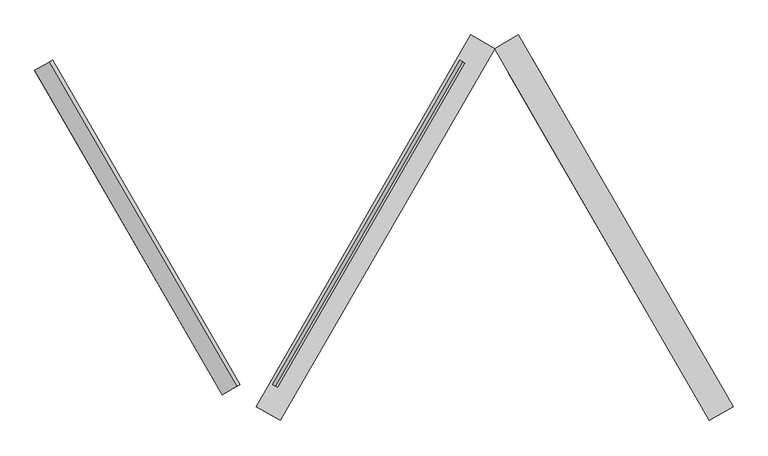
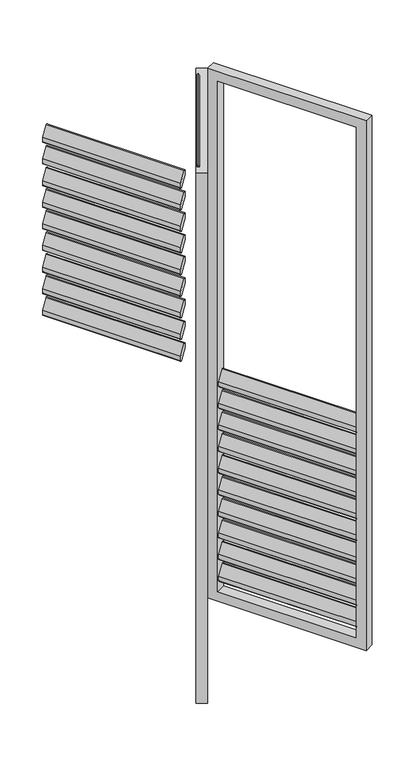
"""IFC4 building model written with IfcOpenShell, lengths in millimetres: proxy geometry, Renson_Amani_Loggia_Paro_Aluminium_Folding : Renson_Amani_Loggia_Paro_Aluminium_Folding."""

from ifc_helpers import new_model, si_unit, point, frame, frame_2d, origin, place, context, project, spatial, polyline, circle_curve, trimmed, segment, composite_curve, outline, extrude, source, transform, mapped, element, save


def generic_models_33ef9a21(model_context):
    return source(origin(), model_context, "Body", "SweptSolid", [
        extrude(outline(composite_curve([segment(polyline([(-44.0658831, 0.0), (0.8886405, 0.0), (17.0325667, -10.4839883)]), True, "CONTINUOUS"), segment(trimmed(circle_curve(frame_2d((15.3986496, -13.0)), 3.0), [point((17.0325667, -10.4839883))], [point((15.3986496, -16.0))], False, "CARTESIAN"), True, "CONTINUOUS"), segment(polyline([(15.3986496, -16.0), (-28.6672334, -16.0)]), True, "CONTINUOUS"), segment(trimmed(circle_curve(frame_2d((-28.6672334, -13.0)), 3.0), [point((-28.6672334, -16.0))], [point((-30.3011505, -15.5160117))], False, "CARTESIAN"), True, "CONTINUOUS"), segment(polyline([(-30.3011505, -15.5160117), (-45.6998002, -5.5160117)]), True, "CONTINUOUS"), segment(trimmed(circle_curve(frame_2d((-44.0658831, -3.0)), 3.0), [point((-45.6998002, -5.5160117))], [point((-44.0658831, 0.0))], False, "CARTESIAN"), True, "CONTINUOUS")], self_intersect=False)), frame((992.1094572, 37.7168064, 957.3359298), z_axis=(-0.5000000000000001, 0.8660254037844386, 0.0), x_axis=(-0.47167124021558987, -0.2723195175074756, -0.8386705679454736)), (0.0, 0.0, 1.0), 545.0),
        extrude(outline(composite_curve([segment(polyline([(-44.0658831, 0.0), (0.8886405, 0.0), (17.0325667, -10.4839883)]), True, "CONTINUOUS"), segment(trimmed(circle_curve(frame_2d((15.3986496, -13.0)), 3.0), [point((17.0325667, -10.4839883))], [point((15.3986496, -16.0))], False, "CARTESIAN"), True, "CONTINUOUS"), segment(polyline([(15.3986496, -16.0), (-28.6672334, -16.0)]), True, "CONTINUOUS"), segment(trimmed(circle_curve(frame_2d((-28.6672334, -13.0)), 3.0), [point((-28.6672334, -16.0))], [point((-30.3011505, -15.5160117))], False, "CARTESIAN"), True, "CONTINUOUS"), segment(polyline([(-30.3011505, -15.5160117), (-45.6998002, -5.5160117)]), True, "CONTINUOUS"), segment(trimmed(circle_curve(frame_2d((-44.0658831, -3.0)), 3.0), [point((-45.6998002, -5.5160117))], [point((-44.0658831, 0.0))], False, "CARTESIAN"), True, "CONTINUOUS")], self_intersect=False)), frame((992.1094572, 37.7168064, 867.3359298), z_axis=(-0.5000000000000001, 0.8660254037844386, 0.0), x_axis=(-0.47167124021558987, -0.2723195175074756, -0.8386705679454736)), (0.0, 0.0, 1.0), 545.0),
        extrude(outline(composite_curve([segment(polyline([(-44.0658831, 0.0), (0.8886405, 0.0), (17.0325667, -10.4839883)]), True, "CONTINUOUS"), segment(trimmed(circle_curve(frame_2d((15.3986496, -13.0)), 3.0), [point((17.0325667, -10.4839883))], [point((15.3986496, -16.0))], False, "CARTESIAN"), True, "CONTINUOUS"), segment(polyline([(15.3986496, -16.0), (-28.6672334, -16.0)]), True, "CONTINUOUS"), segment(trimmed(circle_curve(frame_2d((-28.6672334, -13.0)), 3.0), [point((-28.6672334, -16.0))], [point((-30.3011505, -15.5160117))], False, "CARTESIAN"), True, "CONTINUOUS"), segment(polyline([(-30.3011505, -15.5160117), (-45.6998002, -5.5160117)]), True, "CONTINUOUS"), segment(trimmed(circle_curve(frame_2d((-44.0658831, -3.0)), 3.0), [point((-45.6998002, -5.5160117))], [point((-44.0658831, 0.0))], False, "CARTESIAN"), True, "CONTINUOUS")], self_intersect=False)), frame((992.1094572, 37.7168064, 777.3359298), z_axis=(-0.5000000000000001, 0.8660254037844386, 0.0), x_axis=(-0.47167124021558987, -0.2723195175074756, -0.8386705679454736)), (0.0, 0.0, 1.0), 545.0),
        extrude(outline(composite_curve([segment(polyline([(-44.0658831, 0.0), (0.8886405, 0.0), (17.0325667, -10.4839883)]), True, "CONTINUOUS"), segment(trimmed(circle_curve(frame_2d((15.3986496, -13.0)), 3.0), [point((17.0325667, -10.4839883))], [point((15.3986496, -16.0))], False, "CARTESIAN"), True, "CONTINUOUS"), segment(polyline([(15.3986496, -16.0), (-28.6672334, -16.0)]), True, "CONTINUOUS"), segment(trimmed(circle_curve(frame_2d((-28.6672334, -13.0)), 3.0), [point((-28.6672334, -16.0))], [point((-30.3011505, -15.5160117))], False, "CARTESIAN"), True, "CONTINUOUS"), segment(polyline([(-30.3011505, -15.5160117), (-45.6998002, -5.5160117)]), True, "CONTINUOUS"), segment(trimmed(circle_curve(frame_2d((-44.0658831, -3.0)), 3.0), [point((-45.6998002, -5.5160117))], [point((-44.0658831, 0.0))], False, "CARTESIAN"), True, "CONTINUOUS")], self_intersect=False)), frame((992.1094572, 37.7168064, 687.3359298), z_axis=(-0.5000000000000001, 0.8660254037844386, 0.0), x_axis=(-0.47167124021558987, -0.2723195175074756, -0.8386705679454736)), (0.0, 0.0, 1.0), 545.0),
        extrude(outline(composite_curve([segment(polyline([(-44.0658831, 0.0), (0.8886405, 0.0), (17.0325667, -10.4839883)]), True, "CONTINUOUS"), segment(trimmed(circle_curve(frame_2d((15.3986496, -13.0)), 3.0), [point((17.0325667, -10.4839883))], [point((15.3986496, -16.0))], False, "CARTESIAN"), True, "CONTINUOUS"), segment(polyline([(15.3986496, -16.0), (-28.6672334, -16.0)]), True, "CONTINUOUS"), segment(trimmed(circle_curve(frame_2d((-28.6672334, -13.0)), 3.0), [point((-28.6672334, -16.0))], [point((-30.3011505, -15.5160117))], False, "CARTESIAN"), True, "CONTINUOUS"), segment(polyline([(-30.3011505, -15.5160117), (-45.6998002, -5.5160117)]), True, "CONTINUOUS"), segment(trimmed(circle_curve(frame_2d((-44.0658831, -3.0)), 3.0), [point((-45.6998002, -5.5160117))], [point((-44.0658831, 0.0))], False, "CARTESIAN"), True, "CONTINUOUS")], self_intersect=False)), frame((992.1094572, 37.7168064, 597.3359298), z_axis=(-0.5000000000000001, 0.8660254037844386, 0.0), x_axis=(-0.47167124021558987, -0.2723195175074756, -0.8386705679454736)), (0.0, 0.0, 1.0), 545.0),
        extrude(outline(composite_curve([segment(polyline([(-44.0658831, 0.0), (0.8886405, 0.0), (17.0325667, -10.4839883)]), True, "CONTINUOUS"), segment(trimmed(circle_curve(frame_2d((15.3986496, -13.0)), 3.0), [point((17.0325667, -10.4839883))], [point((15.3986496, -16.0))], False, "CARTESIAN"), True, "CONTINUOUS"), segment(polyline([(15.3986496, -16.0), (-28.6672334, -16.0)]), True, "CONTINUOUS"), segment(trimmed(circle_curve(frame_2d((-28.6672334, -13.0)), 3.0), [point((-28.6672334, -16.0))], [point((-30.3011505, -15.5160117))], False, "CARTESIAN"), True, "CONTINUOUS"), segment(polyline([(-30.3011505, -15.5160117), (-45.6998002, -5.5160117)]), True, "CONTINUOUS"), segment(trimmed(circle_curve(frame_2d((-44.0658831, -3.0)), 3.0), [point((-45.6998002, -5.5160117))], [point((-44.0658831, 0.0))], False, "CARTESIAN"), True, "CONTINUOUS")], self_intersect=False)), frame((992.1094572, 37.7168064, 507.3359298), z_axis=(-0.5000000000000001, 0.8660254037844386, 0.0), x_axis=(-0.47167124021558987, -0.2723195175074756, -0.8386705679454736)), (0.0, 0.0, 1.0), 545.0),
        extrude(outline(composite_curve([segment(polyline([(-44.0658831, 0.0), (0.8886405, 0.0), (17.0325667, -10.4839883)]), True, "CONTINUOUS"), segment(trimmed(circle_curve(frame_2d((15.3986496, -13.0)), 3.0), [point((17.0325667, -10.4839883))], [point((15.3986496, -16.0))], False, "CARTESIAN"), True, "CONTINUOUS"), segment(polyline([(15.3986496, -16.0), (-28.6672334, -16.0)]), True, "CONTINUOUS"), segment(trimmed(circle_curve(frame_2d((-28.6672334, -13.0)), 3.0), [point((-28.6672334, -16.0))], [point((-30.3011505, -15.5160117))], False, "CARTESIAN"), True, "CONTINUOUS"), segment(polyline([(-30.3011505, -15.5160117), (-45.6998002, -5.5160117)]), True, "CONTINUOUS"), segment(trimmed(circle_curve(frame_2d((-44.0658831, -3.0)), 3.0), [point((-45.6998002, -5.5160117))], [point((-44.0658831, 0.0))], False, "CARTESIAN"), True, "CONTINUOUS")], self_intersect=False)), frame((992.1094572, 37.7168064, 417.3359298), z_axis=(-0.5000000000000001, 0.8660254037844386, 0.0), x_axis=(-0.47167124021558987, -0.2723195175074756, -0.8386705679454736)), (0.0, 0.0, 1.0), 545.0),
        extrude(outline(composite_curve([segment(polyline([(-44.0658831, 0.0), (0.8886405, 0.0), (17.0325667, -10.4839883)]), True, "CONTINUOUS"), segment(trimmed(circle_curve(frame_2d((15.3986496, -13.0)), 3.0), [point((17.0325667, -10.4839883))], [point((15.3986496, -16.0))], False, "CARTESIAN"), True, "CONTINUOUS"), segment(polyline([(15.3986496, -16.0), (-28.6672334, -16.0)]), True, "CONTINUOUS"), segment(trimmed(circle_curve(frame_2d((-28.6672334, -13.0)), 3.0), [point((-28.6672334, -16.0))], [point((-30.3011505, -15.5160117))], False, "CARTESIAN"), True, "CONTINUOUS"), segment(polyline([(-30.3011505, -15.5160117), (-45.6998002, -5.5160117)]), True, "CONTINUOUS"), segment(trimmed(circle_curve(frame_2d((-44.0658831, -3.0)), 3.0), [point((-45.6998002, -5.5160117))], [point((-44.0658831, 0.0))], False, "CARTESIAN"), True, "CONTINUOUS")], self_intersect=False)), frame((992.1094572, 37.7168064, 327.3359298), z_axis=(-0.5000000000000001, 0.8660254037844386, 0.0), x_axis=(-0.47167124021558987, -0.2723195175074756, -0.8386705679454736)), (0.0, 0.0, 1.0), 545.0),
        extrude(outline(composite_curve([segment(polyline([(-44.0658831, 0.0), (0.8886405, 0.0), (17.0325667, -10.4839883)]), True, "CONTINUOUS"), segment(trimmed(circle_curve(frame_2d((15.3986496, -13.0)), 3.0), [point((17.0325667, -10.4839883))], [point((15.3986496, -16.0))], False, "CARTESIAN"), True, "CONTINUOUS"), segment(polyline([(15.3986496, -16.0), (-28.6672334, -16.0)]), True, "CONTINUOUS"), segment(trimmed(circle_curve(frame_2d((-28.6672334, -13.0)), 3.0), [point((-28.6672334, -16.0))], [point((-30.3011505, -15.5160117))], False, "CARTESIAN"), True, "CONTINUOUS"), segment(polyline([(-30.3011505, -15.5160117), (-45.6998002, -5.5160117)]), True, "CONTINUOUS"), segment(trimmed(circle_curve(frame_2d((-44.0658831, -3.0)), 3.0), [point((-45.6998002, -5.5160117))], [point((-44.0658831, 0.0))], False, "CARTESIAN"), True, "CONTINUOUS")], self_intersect=False)), frame((992.1094572, 37.7168064, 237.3359298), z_axis=(-0.5000000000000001, 0.8660254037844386, 0.0), x_axis=(-0.47167124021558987, -0.2723195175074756, -0.8386705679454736)), (0.0, 0.0, 1.0), 545.0),
        extrude(outline(composite_curve([segment(polyline([(-44.0658831, 0.0), (0.8886405, 0.0), (17.0325667, -10.4839883)]), True, "CONTINUOUS"), segment(trimmed(circle_curve(frame_2d((15.3986496, -13.0)), 3.0), [point((17.0325667, -10.4839883))], [point((15.3986496, -16.0))], False, "CARTESIAN"), True, "CONTINUOUS"), segment(polyline([(15.3986496, -16.0), (-28.6672334, -16.0)]), True, "CONTINUOUS"), segment(trimmed(circle_curve(frame_2d((-28.6672334, -13.0)), 3.0), [point((-28.6672334, -16.0))], [point((-30.3011505, -15.5160117))], False, "CARTESIAN"), True, "CONTINUOUS"), segment(polyline([(-30.3011505, -15.5160117), (-45.6998002, -5.5160117)]), True, "CONTINUOUS"), segment(trimmed(circle_curve(frame_2d((-44.0658831, -3.0)), 3.0), [point((-45.6998002, -5.5160117))], [point((-44.0658831, 0.0))], False, "CARTESIAN"), True, "CONTINUOUS")], self_intersect=False)), frame((992.1094572, 37.7168064, 147.3359298), z_axis=(-0.5000000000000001, 0.8660254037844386, 0.0), x_axis=(-0.47167124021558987, -0.2723195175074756, -0.8386705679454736)), (0.0, 0.0, 1.0), 545.0),
        extrude(outline(polyline([(2165.0, -40.0), (-40.0, -40.0), (-40.0, 585.0), (2165.0, 585.0), (2165.0, -40.0)]), holes=[polyline([(2125.0, 544.9999999), (0.0, 544.9999999), (0.0, 0.0), (2125.0, 0.0), (2125.0, 544.9999999)])]), frame((714.2820323, 506.6248612, 85.0), z_axis=(0.8660254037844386, 0.5000000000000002, 0.0), x_axis=(0.0, 0.0, 1.0)), (0.0, 0.0, 1.0), 40.0),
        extrude(outline(composite_curve([segment(trimmed(circle_curve(frame_2d((44.0658831, -3.0)), 3.0), [point((44.0658831, 0.0))], [point((45.6998002, -5.5160117))], False, "CARTESIAN"), True, "CONTINUOUS"), segment(polyline([(45.6998002, -5.5160117), (30.3011505, -15.5160117)]), True, "CONTINUOUS"), segment(trimmed(circle_curve(frame_2d((28.6672334, -13.0)), 3.0), [point((30.3011505, -15.5160117))], [point((28.6672334, -16.0))], False, "CARTESIAN"), True, "CONTINUOUS"), segment(polyline([(28.6672334, -16.0), (-15.3986496, -16.0)]), True, "CONTINUOUS"), segment(trimmed(circle_curve(frame_2d((-15.3986496, -13.0)), 3.0), [point((-15.3986496, -16.0))], [point((-17.0325667, -10.4839883))], False, "CARTESIAN"), True, "CONTINUOUS"), segment(polyline([(-17.0325667, -10.4839883), (-0.8886405, 0.0), (44.0658831, 0.0)]), True, "CONTINUOUS")], self_intersect=False)), frame((396.4546074, 37.7168064, 2217.3359298), z_axis=(0.5000000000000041, 0.8660254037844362, 0.0), x_axis=(-0.47167124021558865, 0.2723195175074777, 0.8386705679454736)), (0.0, 0.0, 1.0), 545.0),
        extrude(outline(composite_curve([segment(trimmed(circle_curve(frame_2d((44.0658831, -3.0)), 3.0), [point((44.0658831, 0.0))], [point((45.6998002, -5.5160117))], False, "CARTESIAN"), True, "CONTINUOUS"), segment(polyline([(45.6998002, -5.5160117), (30.3011505, -15.5160117)]), True, "CONTINUOUS"), segment(trimmed(circle_curve(frame_2d((28.6672334, -13.0)), 3.0), [point((30.3011505, -15.5160117))], [point((28.6672334, -16.0))], False, "CARTESIAN"), True, "CONTINUOUS"), segment(polyline([(28.6672334, -16.0), (-15.3986496, -16.0)]), True, "CONTINUOUS"), segment(trimmed(circle_curve(frame_2d((-15.3986496, -13.0)), 3.0), [point((-15.3986496, -16.0))], [point((-17.0325667, -10.4839883))], False, "CARTESIAN"), True, "CONTINUOUS"), segment(polyline([(-17.0325667, -10.4839883), (-0.8886405, 0.0), (44.0658831, 0.0)]), True, "CONTINUOUS")], self_intersect=False)), frame((396.4546074, 37.7168064, 2127.3359298), z_axis=(0.5000000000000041, 0.8660254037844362, 0.0), x_axis=(-0.47167124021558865, 0.2723195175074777, 0.8386705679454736)), (0.0, 0.0, 1.0), 545.0),
        extrude(outline(composite_curve([segment(trimmed(circle_curve(frame_2d((44.0658831, -3.0)), 3.0), [point((44.0658831, 0.0))], [point((45.6998002, -5.5160117))], False, "CARTESIAN"), True, "CONTINUOUS"), segment(polyline([(45.6998002, -5.5160117), (30.3011505, -15.5160117)]), True, "CONTINUOUS"), segment(trimmed(circle_curve(frame_2d((28.6672334, -13.0)), 3.0), [point((30.3011505, -15.5160117))], [point((28.6672334, -16.0))], False, "CARTESIAN"), True, "CONTINUOUS"), segment(polyline([(28.6672334, -16.0), (-15.3986496, -16.0)]), True, "CONTINUOUS"), segment(trimmed(circle_curve(frame_2d((-15.3986496, -13.0)), 3.0), [point((-15.3986496, -16.0))], [point((-17.0325667, -10.4839883))], False, "CARTESIAN"), True, "CONTINUOUS"), segment(polyline([(-17.0325667, -10.4839883), (-0.8886405, 0.0), (44.0658831, 0.0)]), True, "CONTINUOUS")], self_intersect=False)), frame((396.4546074, 37.7168064, 2037.3359298), z_axis=(0.5000000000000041, 0.8660254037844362, 0.0), x_axis=(-0.47167124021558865, 0.2723195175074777, 0.8386705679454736)), (0.0, 0.0, 1.0), 545.0),
        extrude(outline(composite_curve([segment(trimmed(circle_curve(frame_2d((44.0658831, -3.0)), 3.0), [point((44.0658831, 0.0))], [point((45.6998002, -5.5160117))], False, "CARTESIAN"), True, "CONTINUOUS"), segment(polyline([(45.6998002, -5.5160117), (30.3011505, -15.5160117)]), True, "CONTINUOUS"), segment(trimmed(circle_curve(frame_2d((28.6672334, -13.0)), 3.0), [point((30.3011505, -15.5160117))], [point((28.6672334, -16.0))], False, "CARTESIAN"), True, "CONTINUOUS"), segment(polyline([(28.6672334, -16.0), (-15.3986496, -16.0)]), True, "CONTINUOUS"), segment(trimmed(circle_curve(frame_2d((-15.3986496, -13.0)), 3.0), [point((-15.3986496, -16.0))], [point((-17.0325667, -10.4839883))], False, "CARTESIAN"), True, "CONTINUOUS"), segment(polyline([(-17.0325667, -10.4839883), (-0.8886405, 0.0), (44.0658831, 0.0)]), True, "CONTINUOUS")], self_intersect=False)), frame((396.4546074, 37.7168064, 1947.3359298), z_axis=(0.5000000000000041, 0.8660254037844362, 0.0), x_axis=(-0.47167124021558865, 0.2723195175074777, 0.8386705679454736)), (0.0, 0.0, 1.0), 545.0),
        extrude(outline(composite_curve([segment(trimmed(circle_curve(frame_2d((44.0658831, -3.0)), 3.0), [point((44.0658831, 0.0))], [point((45.6998002, -5.5160117))], False, "CARTESIAN"), True, "CONTINUOUS"), segment(polyline([(45.6998002, -5.5160117), (30.3011505, -15.5160117)]), True, "CONTINUOUS"), segment(trimmed(circle_curve(frame_2d((28.6672334, -13.0)), 3.0), [point((30.3011505, -15.5160117))], [point((28.6672334, -16.0))], False, "CARTESIAN"), True, "CONTINUOUS"), segment(polyline([(28.6672334, -16.0), (-15.3986496, -16.0)]), True, "CONTINUOUS"), segment(trimmed(circle_curve(frame_2d((-15.3986496, -13.0)), 3.0), [point((-15.3986496, -16.0))], [point((-17.0325667, -10.4839883))], False, "CARTESIAN"), True, "CONTINUOUS"), segment(polyline([(-17.0325667, -10.4839883), (-0.8886405, 0.0), (44.0658831, 0.0)]), True, "CONTINUOUS")], self_intersect=False)), frame((396.4546074, 37.7168064, 1857.3359298), z_axis=(0.5000000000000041, 0.8660254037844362, 0.0), x_axis=(-0.47167124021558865, 0.2723195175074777, 0.8386705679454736)), (0.0, 0.0, 1.0), 545.0),
        extrude(outline(composite_curve([segment(trimmed(circle_curve(frame_2d((44.0658831, -3.0)), 3.0), [point((44.0658831, 0.0))], [point((45.6998002, -5.5160117))], False, "CARTESIAN"), True, "CONTINUOUS"), segment(polyline([(45.6998002, -5.5160117), (30.3011505, -15.5160117)]), True, "CONTINUOUS"), segment(trimmed(circle_curve(frame_2d((28.6672334, -13.0)), 3.0), [point((30.3011505, -15.5160117))], [point((28.6672334, -16.0))], False, "CARTESIAN"), True, "CONTINUOUS"), segment(polyline([(28.6672334, -16.0), (-15.3986496, -16.0)]), True, "CONTINUOUS"), segment(trimmed(circle_curve(frame_2d((-15.3986496, -13.0)), 3.0), [point((-15.3986496, -16.0))], [point((-17.0325667, -10.4839883))], False, "CARTESIAN"), True, "CONTINUOUS"), segment(polyline([(-17.0325667, -10.4839883), (-0.8886405, 0.0), (44.0658831, 0.0)]), True, "CONTINUOUS")], self_intersect=False)), frame((396.4546074, 37.7168064, 1767.3359298), z_axis=(0.5000000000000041, 0.8660254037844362, 0.0), x_axis=(-0.47167124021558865, 0.2723195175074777, 0.8386705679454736)), (0.0, 0.0, 1.0), 545.0),
        extrude(outline(composite_curve([segment(trimmed(circle_curve(frame_2d((44.0658831, -3.0)), 3.0), [point((44.0658831, 0.0))], [point((45.6998002, -5.5160117))], False, "CARTESIAN"), True, "CONTINUOUS"), segment(polyline([(45.6998002, -5.5160117), (30.3011505, -15.5160117)]), True, "CONTINUOUS"), segment(trimmed(circle_curve(frame_2d((28.6672334, -13.0)), 3.0), [point((30.3011505, -15.5160117))], [point((28.6672334, -16.0))], False, "CARTESIAN"), True, "CONTINUOUS"), segment(polyline([(28.6672334, -16.0), (-15.3986496, -16.0)]), True, "CONTINUOUS"), segment(trimmed(circle_curve(frame_2d((-15.3986496, -13.0)), 3.0), [point((-15.3986496, -16.0))], [point((-17.0325667, -10.4839883))], False, "CARTESIAN"), True, "CONTINUOUS"), segment(polyline([(-17.0325667, -10.4839883), (-0.8886405, 0.0), (44.0658831, 0.0)]), True, "CONTINUOUS")], self_intersect=False)), frame((396.4546074, 37.7168064, 1677.3359298), z_axis=(0.5000000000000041, 0.8660254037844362, 0.0), x_axis=(-0.47167124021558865, 0.2723195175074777, 0.8386705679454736)), (0.0, 0.0, 1.0), 545.0),
        extrude(outline(composite_curve([segment(trimmed(circle_curve(frame_2d((44.0658831, -3.0)), 3.0), [point((44.0658831, 0.0))], [point((45.6998002, -5.5160117))], False, "CARTESIAN"), True, "CONTINUOUS"), segment(polyline([(45.6998002, -5.5160117), (30.3011505, -15.5160117)]), True, "CONTINUOUS"), segment(trimmed(circle_curve(frame_2d((28.6672334, -13.0)), 3.0), [point((30.3011505, -15.5160117))], [point((28.6672334, -16.0))], False, "CARTESIAN"), True, "CONTINUOUS"), segment(polyline([(28.6672334, -16.0), (-15.3986496, -16.0)]), True, "CONTINUOUS"), segment(trimmed(circle_curve(frame_2d((-15.3986496, -13.0)), 3.0), [point((-15.3986496, -16.0))], [point((-17.0325667, -10.4839883))], False, "CARTESIAN"), True, "CONTINUOUS"), segment(polyline([(-17.0325667, -10.4839883), (-0.8886405, 0.0), (44.0658831, 0.0)]), True, "CONTINUOUS")], self_intersect=False)), frame((396.4546074, 37.7168064, 1587.3359298), z_axis=(0.5000000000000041, 0.8660254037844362, 0.0), x_axis=(-0.47167124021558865, 0.2723195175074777, 0.8386705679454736)), (0.0, 0.0, 1.0), 545.0),
        extrude(outline(composite_curve([segment(trimmed(circle_curve(frame_2d((44.0658831, -3.0)), 3.0), [point((44.0658831, 0.0))], [point((45.6998002, -5.5160117))], False, "CARTESIAN"), True, "CONTINUOUS"), segment(polyline([(45.6998002, -5.5160117), (30.3011505, -15.5160117)]), True, "CONTINUOUS"), segment(trimmed(circle_curve(frame_2d((28.6672334, -13.0)), 3.0), [point((30.3011505, -15.5160117))], [point((28.6672334, -16.0))], False, "CARTESIAN"), True, "CONTINUOUS"), segment(polyline([(28.6672334, -16.0), (-15.3986496, -16.0)]), True, "CONTINUOUS"), segment(trimmed(circle_curve(frame_2d((-15.3986496, -13.0)), 3.0), [point((-15.3986496, -16.0))], [point((-17.0325667, -10.4839883))], False, "CARTESIAN"), True, "CONTINUOUS"), segment(polyline([(-17.0325667, -10.4839883), (-0.8886405, 0.0), (44.0658831, 0.0)]), True, "CONTINUOUS")], self_intersect=False)), frame((396.4546074, 37.7168064, 1497.3359298), z_axis=(0.5000000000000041, 0.8660254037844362, 0.0), x_axis=(-0.47167124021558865, 0.2723195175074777, 0.8386705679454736)), (0.0, 0.0, 1.0), 545.0),
        extrude(outline(composite_curve([segment(trimmed(circle_curve(frame_2d((44.0658831, -3.0)), 3.0), [point((44.0658831, 0.0))], [point((45.6998002, -5.5160117))], False, "CARTESIAN"), True, "CONTINUOUS"), segment(polyline([(45.6998002, -5.5160117), (30.3011505, -15.5160117)]), True, "CONTINUOUS"), segment(trimmed(circle_curve(frame_2d((28.6672334, -13.0)), 3.0), [point((30.3011505, -15.5160117))], [point((28.6672334, -16.0))], False, "CARTESIAN"), True, "CONTINUOUS"), segment(polyline([(28.6672334, -16.0), (-15.3986496, -16.0)]), True, "CONTINUOUS"), segment(trimmed(circle_curve(frame_2d((-15.3986496, -13.0)), 3.0), [point((-15.3986496, -16.0))], [point((-17.0325667, -10.4839883))], False, "CARTESIAN"), True, "CONTINUOUS"), segment(polyline([(-17.0325667, -10.4839883), (-0.8886405, 0.0), (44.0658831, 0.0)]), True, "CONTINUOUS")], self_intersect=False)), frame((396.4546074, 37.7168064, 1407.3359298), z_axis=(0.5000000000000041, 0.8660254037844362, 0.0), x_axis=(-0.47167124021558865, 0.2723195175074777, 0.8386705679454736)), (0.0, 0.0, 1.0), 545.0),
        extrude(outline(composite_curve([segment(trimmed(circle_curve(frame_2d((44.0658831, -3.0)), 3.0), [point((44.0658831, 0.0))], [point((45.6998002, -5.5160117))], False, "CARTESIAN"), True, "CONTINUOUS"), segment(polyline([(45.6998002, -5.5160117), (30.3011505, -15.5160117)]), True, "CONTINUOUS"), segment(trimmed(circle_curve(frame_2d((28.6672334, -13.0)), 3.0), [point((30.3011505, -15.5160117))], [point((28.6672334, -16.0))], False, "CARTESIAN"), True, "CONTINUOUS"), segment(polyline([(28.6672334, -16.0), (-15.3986496, -16.0)]), True, "CONTINUOUS"), segment(trimmed(circle_curve(frame_2d((-15.3986496, -13.0)), 3.0), [point((-15.3986496, -16.0))], [point((-17.0325667, -10.4839883))], False, "CARTESIAN"), True, "CONTINUOUS"), segment(polyline([(-17.0325667, -10.4839883), (-0.8886405, 0.0), (44.0658831, 0.0)]), True, "CONTINUOUS")], self_intersect=False)), frame((396.4546074, 37.7168064, 1317.3359298), z_axis=(0.5000000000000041, 0.8660254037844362, 0.0), x_axis=(-0.47167124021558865, 0.2723195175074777, 0.8386705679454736)), (0.0, 0.0, 1.0), 545.0),
        extrude(outline(composite_curve([segment(trimmed(circle_curve(frame_2d((44.0658831, -3.0)), 3.0), [point((44.0658831, 0.0))], [point((45.6998002, -5.5160117))], False, "CARTESIAN"), True, "CONTINUOUS"), segment(polyline([(45.6998002, -5.5160117), (30.3011505, -15.5160117)]), True, "CONTINUOUS"), segment(trimmed(circle_curve(frame_2d((28.6672334, -13.0)), 3.0), [point((30.3011505, -15.5160117))], [point((28.6672334, -16.0))], False, "CARTESIAN"), True, "CONTINUOUS"), segment(polyline([(28.6672334, -16.0), (-15.3986496, -16.0)]), True, "CONTINUOUS"), segment(trimmed(circle_curve(frame_2d((-15.3986496, -13.0)), 3.0), [point((-15.3986496, -16.0))], [point((-17.0325667, -10.4839883))], False, "CARTESIAN"), True, "CONTINUOUS"), segment(polyline([(-17.0325667, -10.4839883), (-0.8886405, 0.0), (44.0658831, 0.0)]), True, "CONTINUOUS")], self_intersect=False)), frame((396.4546074, 37.7168064, 1227.3359298), z_axis=(0.5000000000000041, 0.8660254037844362, 0.0), x_axis=(-0.47167124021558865, 0.2723195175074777, 0.8386705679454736)), (0.0, 0.0, 1.0), 545.0),
        extrude(outline(composite_curve([segment(trimmed(circle_curve(frame_2d((44.0658831, -3.0)), 3.0), [point((44.0658831, 0.0))], [point((45.6998002, -5.5160117))], False, "CARTESIAN"), True, "CONTINUOUS"), segment(polyline([(45.6998002, -5.5160117), (30.3011505, -15.5160117)]), True, "CONTINUOUS"), segment(trimmed(circle_curve(frame_2d((28.6672334, -13.0)), 3.0), [point((30.3011505, -15.5160117))], [point((28.6672334, -16.0))], False, "CARTESIAN"), True, "CONTINUOUS"), segment(polyline([(28.6672334, -16.0), (-15.3986496, -16.0)]), True, "CONTINUOUS"), segment(trimmed(circle_curve(frame_2d((-15.3986496, -13.0)), 3.0), [point((-15.3986496, -16.0))], [point((-17.0325667, -10.4839883))], False, "CARTESIAN"), True, "CONTINUOUS"), segment(polyline([(-17.0325667, -10.4839883), (-0.8886405, 0.0), (44.0658831, 0.0)]), True, "CONTINUOUS")], self_intersect=False)), frame((396.4546074, 37.7168064, 1137.3359298), z_axis=(0.5000000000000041, 0.8660254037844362, 0.0), x_axis=(-0.47167124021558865, 0.2723195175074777, 0.8386705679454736)), (0.0, 0.0, 1.0), 545.0),
        extrude(outline(composite_curve([segment(trimmed(circle_curve(frame_2d((44.0658831, -3.0)), 3.0), [point((44.0658831, 0.0))], [point((45.6998002, -5.5160117))], False, "CARTESIAN"), True, "CONTINUOUS"), segment(polyline([(45.6998002, -5.5160117), (30.3011505, -15.5160117)]), True, "CONTINUOUS"), segment(trimmed(circle_curve(frame_2d((28.6672334, -13.0)), 3.0), [point((30.3011505, -15.5160117))], [point((28.6672334, -16.0))], False, "CARTESIAN"), True, "CONTINUOUS"), segment(polyline([(28.6672334, -16.0), (-15.3986496, -16.0)]), True, "CONTINUOUS"), segment(trimmed(circle_curve(frame_2d((-15.3986496, -13.0)), 3.0), [point((-15.3986496, -16.0))], [point((-17.0325667, -10.4839883))], False, "CARTESIAN"), True, "CONTINUOUS"), segment(polyline([(-17.0325667, -10.4839883), (-0.8886405, 0.0), (44.0658831, 0.0)]), True, "CONTINUOUS")], self_intersect=False)), frame((396.4546074, 37.7168064, 1047.3359298), z_axis=(0.5000000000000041, 0.8660254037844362, 0.0), x_axis=(-0.47167124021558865, 0.2723195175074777, 0.8386705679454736)), (0.0, 0.0, 1.0), 545.0),
        extrude(outline(composite_curve([segment(trimmed(circle_curve(frame_2d((44.0658831, -3.0)), 3.0), [point((44.0658831, 0.0))], [point((45.6998002, -5.5160117))], False, "CARTESIAN"), True, "CONTINUOUS"), segment(polyline([(45.6998002, -5.5160117), (30.3011505, -15.5160117)]), True, "CONTINUOUS"), segment(trimmed(circle_curve(frame_2d((28.6672334, -13.0)), 3.0), [point((30.3011505, -15.5160117))], [point((28.6672334, -16.0))], False, "CARTESIAN"), True, "CONTINUOUS"), segment(polyline([(28.6672334, -16.0), (-15.3986496, -16.0)]), True, "CONTINUOUS"), segment(trimmed(circle_curve(frame_2d((-15.3986496, -13.0)), 3.0), [point((-15.3986496, -16.0))], [point((-17.0325667, -10.4839883))], False, "CARTESIAN"), True, "CONTINUOUS"), segment(polyline([(-17.0325667, -10.4839883), (-0.8886405, 0.0), (44.0658831, 0.0)]), True, "CONTINUOUS")], self_intersect=False)), frame((396.4546074, 37.7168064, 957.3359298), z_axis=(0.5000000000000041, 0.8660254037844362, 0.0), x_axis=(-0.47167124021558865, 0.2723195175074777, 0.8386705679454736)), (0.0, 0.0, 1.0), 545.0),
        extrude(outline(composite_curve([segment(trimmed(circle_curve(frame_2d((44.0658831, -3.0)), 3.0), [point((44.0658831, 0.0))], [point((45.6998002, -5.5160117))], False, "CARTESIAN"), True, "CONTINUOUS"), segment(polyline([(45.6998002, -5.5160117), (30.3011505, -15.5160117)]), True, "CONTINUOUS"), segment(trimmed(circle_curve(frame_2d((28.6672334, -13.0)), 3.0), [point((30.3011505, -15.5160117))], [point((28.6672334, -16.0))], False, "CARTESIAN"), True, "CONTINUOUS"), segment(polyline([(28.6672334, -16.0), (-15.3986496, -16.0)]), True, "CONTINUOUS"), segment(trimmed(circle_curve(frame_2d((-15.3986496, -13.0)), 3.0), [point((-15.3986496, -16.0))], [point((-17.0325667, -10.4839883))], False, "CARTESIAN"), True, "CONTINUOUS"), segment(polyline([(-17.0325667, -10.4839883), (-0.8886405, 0.0), (44.0658831, 0.0)]), True, "CONTINUOUS")], self_intersect=False)), frame((396.4546074, 37.7168064, 867.3359298), z_axis=(0.5000000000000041, 0.8660254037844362, 0.0), x_axis=(-0.47167124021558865, 0.2723195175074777, 0.8386705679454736)), (0.0, 0.0, 1.0), 545.0),
        extrude(outline(composite_curve([segment(trimmed(circle_curve(frame_2d((44.0658831, -3.0)), 3.0), [point((44.0658831, 0.0))], [point((45.6998002, -5.5160117))], False, "CARTESIAN"), True, "CONTINUOUS"), segment(polyline([(45.6998002, -5.5160117), (30.3011505, -15.5160117)]), True, "CONTINUOUS"), segment(trimmed(circle_curve(frame_2d((28.6672334, -13.0)), 3.0), [point((30.3011505, -15.5160117))], [point((28.6672334, -16.0))], False, "CARTESIAN"), True, "CONTINUOUS"), segment(polyline([(28.6672334, -16.0), (-15.3986496, -16.0)]), True, "CONTINUOUS"), segment(trimmed(circle_curve(frame_2d((-15.3986496, -13.0)), 3.0), [point((-15.3986496, -16.0))], [point((-17.0325667, -10.4839883))], False, "CARTESIAN"), True, "CONTINUOUS"), segment(polyline([(-17.0325667, -10.4839883), (-0.8886405, 0.0), (44.0658831, 0.0)]), True, "CONTINUOUS")], self_intersect=False)), frame((396.4546074, 37.7168064, 777.3359298), z_axis=(0.5000000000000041, 0.8660254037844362, 0.0), x_axis=(-0.47167124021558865, 0.2723195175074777, 0.8386705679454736)), (0.0, 0.0, 1.0), 545.0),
        extrude(outline(composite_curve([segment(trimmed(circle_curve(frame_2d((44.0658831, -3.0)), 3.0), [point((44.0658831, 0.0))], [point((45.6998002, -5.5160117))], False, "CARTESIAN"), True, "CONTINUOUS"), segment(polyline([(45.6998002, -5.5160117), (30.3011505, -15.5160117)]), True, "CONTINUOUS"), segment(trimmed(circle_curve(frame_2d((28.6672334, -13.0)), 3.0), [point((30.3011505, -15.5160117))], [point((28.6672334, -16.0))], False, "CARTESIAN"), True, "CONTINUOUS"), segment(polyline([(28.6672334, -16.0), (-15.3986496, -16.0)]), True, "CONTINUOUS"), segment(trimmed(circle_curve(frame_2d((-15.3986496, -13.0)), 3.0), [point((-15.3986496, -16.0))], [point((-17.0325667, -10.4839883))], False, "CARTESIAN"), True, "CONTINUOUS"), segment(polyline([(-17.0325667, -10.4839883), (-0.8886405, 0.0), (44.0658831, 0.0)]), True, "CONTINUOUS")], self_intersect=False)), frame((396.4546074, 37.7168064, 687.3359298), z_axis=(0.5000000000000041, 0.8660254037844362, 0.0), x_axis=(-0.47167124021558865, 0.2723195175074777, 0.8386705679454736)), (0.0, 0.0, 1.0), 545.0),
        extrude(outline(composite_curve([segment(trimmed(circle_curve(frame_2d((44.0658831, -3.0)), 3.0), [point((44.0658831, 0.0))], [point((45.6998002, -5.5160117))], False, "CARTESIAN"), True, "CONTINUOUS"), segment(polyline([(45.6998002, -5.5160117), (30.3011505, -15.5160117)]), True, "CONTINUOUS"), segment(trimmed(circle_curve(frame_2d((28.6672334, -13.0)), 3.0), [point((30.3011505, -15.5160117))], [point((28.6672334, -16.0))], False, "CARTESIAN"), True, "CONTINUOUS"), segment(polyline([(28.6672334, -16.0), (-15.3986496, -16.0)]), True, "CONTINUOUS"), segment(trimmed(circle_curve(frame_2d((-15.3986496, -13.0)), 3.0), [point((-15.3986496, -16.0))], [point((-17.0325667, -10.4839883))], False, "CARTESIAN"), True, "CONTINUOUS"), segment(polyline([(-17.0325667, -10.4839883), (-0.8886405, 0.0), (44.0658831, 0.0)]), True, "CONTINUOUS")], self_intersect=False)), frame((396.4546074, 37.7168064, 597.3359298), z_axis=(0.5000000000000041, 0.8660254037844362, 0.0), x_axis=(-0.47167124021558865, 0.2723195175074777, 0.8386705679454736)), (0.0, 0.0, 1.0), 545.0),
        extrude(outline(composite_curve([segment(trimmed(circle_curve(frame_2d((44.0658831, -3.0)), 3.0), [point((44.0658831, 0.0))], [point((45.6998002, -5.5160117))], False, "CARTESIAN"), True, "CONTINUOUS"), segment(polyline([(45.6998002, -5.5160117), (30.3011505, -15.5160117)]), True, "CONTINUOUS"), segment(trimmed(circle_curve(frame_2d((28.6672334, -13.0)), 3.0), [point((30.3011505, -15.5160117))], [point((28.6672334, -16.0))], False, "CARTESIAN"), True, "CONTINUOUS"), segment(polyline([(28.6672334, -16.0), (-15.3986496, -16.0)]), True, "CONTINUOUS"), segment(trimmed(circle_curve(frame_2d((-15.3986496, -13.0)), 3.0), [point((-15.3986496, -16.0))], [point((-17.0325667, -10.4839883))], False, "CARTESIAN"), True, "CONTINUOUS"), segment(polyline([(-17.0325667, -10.4839883), (-0.8886405, 0.0), (44.0658831, 0.0)]), True, "CONTINUOUS")], self_intersect=False)), frame((396.4546074, 37.7168064, 507.3359298), z_axis=(0.5000000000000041, 0.8660254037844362, 0.0), x_axis=(-0.47167124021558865, 0.2723195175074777, 0.8386705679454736)), (0.0, 0.0, 1.0), 545.0),
        extrude(outline(composite_curve([segment(trimmed(circle_curve(frame_2d((44.0658831, -3.0)), 3.0), [point((44.0658831, 0.0))], [point((45.6998002, -5.5160117))], False, "CARTESIAN"), True, "CONTINUOUS"), segment(polyline([(45.6998002, -5.5160117), (30.3011505, -15.5160117)]), True, "CONTINUOUS"), segment(trimmed(circle_curve(frame_2d((28.6672334, -13.0)), 3.0), [point((30.3011505, -15.5160117))], [point((28.6672334, -16.0))], False, "CARTESIAN"), True, "CONTINUOUS"), segment(polyline([(28.6672334, -16.0), (-15.3986496, -16.0)]), True, "CONTINUOUS"), segment(trimmed(circle_curve(frame_2d((-15.3986496, -13.0)), 3.0), [point((-15.3986496, -16.0))], [point((-17.0325667, -10.4839883))], False, "CARTESIAN"), True, "CONTINUOUS"), segment(polyline([(-17.0325667, -10.4839883), (-0.8886405, 0.0), (44.0658831, 0.0)]), True, "CONTINUOUS")], self_intersect=False)), frame((396.4546074, 37.7168064, 417.3359298), z_axis=(0.5000000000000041, 0.8660254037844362, 0.0), x_axis=(-0.47167124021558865, 0.2723195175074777, 0.8386705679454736)), (0.0, 0.0, 1.0), 545.0),
        extrude(outline(composite_curve([segment(trimmed(circle_curve(frame_2d((44.0658831, -3.0)), 3.0), [point((44.0658831, 0.0))], [point((45.6998002, -5.5160117))], False, "CARTESIAN"), True, "CONTINUOUS"), segment(polyline([(45.6998002, -5.5160117), (30.3011505, -15.5160117)]), True, "CONTINUOUS"), segment(trimmed(circle_curve(frame_2d((28.6672334, -13.0)), 3.0), [point((30.3011505, -15.5160117))], [point((28.6672334, -16.0))], False, "CARTESIAN"), True, "CONTINUOUS"), segment(polyline([(28.6672334, -16.0), (-15.3986496, -16.0)]), True, "CONTINUOUS"), segment(trimmed(circle_curve(frame_2d((-15.3986496, -13.0)), 3.0), [point((-15.3986496, -16.0))], [point((-17.0325667, -10.4839883))], False, "CARTESIAN"), True, "CONTINUOUS"), segment(polyline([(-17.0325667, -10.4839883), (-0.8886405, 0.0), (44.0658831, 0.0)]), True, "CONTINUOUS")], self_intersect=False)), frame((396.4546074, 37.7168064, 327.3359298), z_axis=(0.5000000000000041, 0.8660254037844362, 0.0), x_axis=(-0.47167124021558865, 0.2723195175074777, 0.8386705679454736)), (0.0, 0.0, 1.0), 545.0),
        extrude(outline(composite_curve([segment(trimmed(circle_curve(frame_2d((44.0658831, -3.0)), 3.0), [point((44.0658831, 0.0))], [point((45.6998002, -5.5160117))], False, "CARTESIAN"), True, "CONTINUOUS"), segment(polyline([(45.6998002, -5.5160117), (30.3011505, -15.5160117)]), True, "CONTINUOUS"), segment(trimmed(circle_curve(frame_2d((28.6672334, -13.0)), 3.0), [point((30.3011505, -15.5160117))], [point((28.6672334, -16.0))], False, "CARTESIAN"), True, "CONTINUOUS"), segment(polyline([(28.6672334, -16.0), (-15.3986496, -16.0)]), True, "CONTINUOUS"), segment(trimmed(circle_curve(frame_2d((-15.3986496, -13.0)), 3.0), [point((-15.3986496, -16.0))], [point((-17.0325667, -10.4839883))], False, "CARTESIAN"), True, "CONTINUOUS"), segment(polyline([(-17.0325667, -10.4839883), (-0.8886405, 0.0), (44.0658831, 0.0)]), True, "CONTINUOUS")], self_intersect=False)), frame((396.4546074, 37.7168064, 237.3359298), z_axis=(0.5000000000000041, 0.8660254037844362, 0.0), x_axis=(-0.47167124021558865, 0.2723195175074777, 0.8386705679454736)), (0.0, 0.0, 1.0), 545.0),
        extrude(outline(composite_curve([segment(trimmed(circle_curve(frame_2d((44.0658831, -3.0)), 3.0), [point((44.0658831, 0.0))], [point((45.6998002, -5.5160117))], False, "CARTESIAN"), True, "CONTINUOUS"), segment(polyline([(45.6998002, -5.5160117), (30.3011505, -15.5160117)]), True, "CONTINUOUS"), segment(trimmed(circle_curve(frame_2d((28.6672334, -13.0)), 3.0), [point((30.3011505, -15.5160117))], [point((28.6672334, -16.0))], False, "CARTESIAN"), True, "CONTINUOUS"), segment(polyline([(28.6672334, -16.0), (-15.3986496, -16.0)]), True, "CONTINUOUS"), segment(trimmed(circle_curve(frame_2d((-15.3986496, -13.0)), 3.0), [point((-15.3986496, -16.0))], [point((-17.0325667, -10.4839883))], False, "CARTESIAN"), True, "CONTINUOUS"), segment(polyline([(-17.0325667, -10.4839883), (-0.8886405, 0.0), (44.0658831, 0.0)]), True, "CONTINUOUS")], self_intersect=False)), frame((396.4546074, 37.7168064, 147.3359298), z_axis=(0.5000000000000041, 0.8660254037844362, 0.0), x_axis=(-0.47167124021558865, 0.2723195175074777, 0.8386705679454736)), (0.0, 0.0, 1.0), 545.0),
        extrude(outline(polyline([(2165.0, -40.0), (-40.0, -40.0), (-40.0, 585.0), (2165.0, 585.0), (2165.0, -40.0)]), holes=[polyline([(2125.0, 544.9999999), (0.0, 544.9999999), (0.0, 0.0), (2125.0, 0.0), (2125.0, 544.9999999)])]), frame((401.7820323, 34.6410162, 85.0), z_axis=(-0.8660254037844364, 0.5000000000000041, 0.0), x_axis=(0.0, 0.0, 1.0)), (0.0, 0.0, 1.0), 40.0),
        extrude(outline(composite_curve([segment(polyline([(-44.0658831, 0.0), (0.8886405, 0.0), (17.0325667, -10.4839883)]), True, "CONTINUOUS"), segment(trimmed(circle_curve(frame_2d((15.3986496, -13.0)), 3.0), [point((17.0325667, -10.4839883))], [point((15.3986496, -16.0))], False, "CARTESIAN"), True, "CONTINUOUS"), segment(polyline([(15.3986496, -16.0), (-28.6672334, -16.0)]), True, "CONTINUOUS"), segment(trimmed(circle_curve(frame_2d((-28.6672334, -13.0)), 3.0), [point((-28.6672334, -16.0))], [point((-30.3011505, -15.5160117))], False, "CARTESIAN"), True, "CONTINUOUS"), segment(polyline([(-30.3011505, -15.5160117), (-45.6998002, -5.5160117)]), True, "CONTINUOUS"), segment(trimmed(circle_curve(frame_2d((-44.0658831, -3.0)), 3.0), [point((-45.6998002, -5.5160117))], [point((-44.0658831, 0.0))], False, "CARTESIAN"), True, "CONTINUOUS")], self_intersect=False)), frame((297.8274249, 37.7168064, 2217.3359298), z_axis=(-0.5000000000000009, 0.8660254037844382, 0.0), x_axis=(-0.47167124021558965, -0.27231951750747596, -0.8386705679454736)), (0.0, 0.0, 1.0), 545.0),
        extrude(outline(composite_curve([segment(polyline([(-44.0658831, 0.0), (0.8886405, 0.0), (17.0325667, -10.4839883)]), True, "CONTINUOUS"), segment(trimmed(circle_curve(frame_2d((15.3986496, -13.0)), 3.0), [point((17.0325667, -10.4839883))], [point((15.3986496, -16.0))], False, "CARTESIAN"), True, "CONTINUOUS"), segment(polyline([(15.3986496, -16.0), (-28.6672334, -16.0)]), True, "CONTINUOUS"), segment(trimmed(circle_curve(frame_2d((-28.6672334, -13.0)), 3.0), [point((-28.6672334, -16.0))], [point((-30.3011505, -15.5160117))], False, "CARTESIAN"), True, "CONTINUOUS"), segment(polyline([(-30.3011505, -15.5160117), (-45.6998002, -5.5160117)]), True, "CONTINUOUS"), segment(trimmed(circle_curve(frame_2d((-44.0658831, -3.0)), 3.0), [point((-45.6998002, -5.5160117))], [point((-44.0658831, 0.0))], False, "CARTESIAN"), True, "CONTINUOUS")], self_intersect=False)), frame((297.8274249, 37.7168064, 2127.3359298), z_axis=(-0.5000000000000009, 0.8660254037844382, 0.0), x_axis=(-0.47167124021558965, -0.27231951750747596, -0.8386705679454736)), (0.0, 0.0, 1.0), 545.0),
        extrude(outline(composite_curve([segment(polyline([(-44.0658831, 0.0), (0.8886405, 0.0), (17.0325667, -10.4839883)]), True, "CONTINUOUS"), segment(trimmed(circle_curve(frame_2d((15.3986496, -13.0)), 3.0), [point((17.0325667, -10.4839883))], [point((15.3986496, -16.0))], False, "CARTESIAN"), True, "CONTINUOUS"), segment(polyline([(15.3986496, -16.0), (-28.6672334, -16.0)]), True, "CONTINUOUS"), segment(trimmed(circle_curve(frame_2d((-28.6672334, -13.0)), 3.0), [point((-28.6672334, -16.0))], [point((-30.3011505, -15.5160117))], False, "CARTESIAN"), True, "CONTINUOUS"), segment(polyline([(-30.3011505, -15.5160117), (-45.6998002, -5.5160117)]), True, "CONTINUOUS"), segment(trimmed(circle_curve(frame_2d((-44.0658831, -3.0)), 3.0), [point((-45.6998002, -5.5160117))], [point((-44.0658831, 0.0))], False, "CARTESIAN"), True, "CONTINUOUS")], self_intersect=False)), frame((297.8274249, 37.7168064, 2037.3359298), z_axis=(-0.5000000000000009, 0.8660254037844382, 0.0), x_axis=(-0.47167124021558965, -0.27231951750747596, -0.8386705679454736)), (0.0, 0.0, 1.0), 545.0),
        extrude(outline(composite_curve([segment(polyline([(-44.0658831, 0.0), (0.8886405, 0.0), (17.0325667, -10.4839883)]), True, "CONTINUOUS"), segment(trimmed(circle_curve(frame_2d((15.3986496, -13.0)), 3.0), [point((17.0325667, -10.4839883))], [point((15.3986496, -16.0))], False, "CARTESIAN"), True, "CONTINUOUS"), segment(polyline([(15.3986496, -16.0), (-28.6672334, -16.0)]), True, "CONTINUOUS"), segment(trimmed(circle_curve(frame_2d((-28.6672334, -13.0)), 3.0), [point((-28.6672334, -16.0))], [point((-30.3011505, -15.5160117))], False, "CARTESIAN"), True, "CONTINUOUS"), segment(polyline([(-30.3011505, -15.5160117), (-45.6998002, -5.5160117)]), True, "CONTINUOUS"), segment(trimmed(circle_curve(frame_2d((-44.0658831, -3.0)), 3.0), [point((-45.6998002, -5.5160117))], [point((-44.0658831, 0.0))], False, "CARTESIAN"), True, "CONTINUOUS")], self_intersect=False)), frame((297.8274249, 37.7168064, 1947.3359298), z_axis=(-0.5000000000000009, 0.8660254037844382, 0.0), x_axis=(-0.47167124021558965, -0.27231951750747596, -0.8386705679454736)), (0.0, 0.0, 1.0), 545.0),
        extrude(outline(composite_curve([segment(polyline([(-44.0658831, 0.0), (0.8886405, 0.0), (17.0325667, -10.4839883)]), True, "CONTINUOUS"), segment(trimmed(circle_curve(frame_2d((15.3986496, -13.0)), 3.0), [point((17.0325667, -10.4839883))], [point((15.3986496, -16.0))], False, "CARTESIAN"), True, "CONTINUOUS"), segment(polyline([(15.3986496, -16.0), (-28.6672334, -16.0)]), True, "CONTINUOUS"), segment(trimmed(circle_curve(frame_2d((-28.6672334, -13.0)), 3.0), [point((-28.6672334, -16.0))], [point((-30.3011505, -15.5160117))], False, "CARTESIAN"), True, "CONTINUOUS"), segment(polyline([(-30.3011505, -15.5160117), (-45.6998002, -5.5160117)]), True, "CONTINUOUS"), segment(trimmed(circle_curve(frame_2d((-44.0658831, -3.0)), 3.0), [point((-45.6998002, -5.5160117))], [point((-44.0658831, 0.0))], False, "CARTESIAN"), True, "CONTINUOUS")], self_intersect=False)), frame((297.8274249, 37.7168064, 1857.3359298), z_axis=(-0.5000000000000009, 0.8660254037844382, 0.0), x_axis=(-0.47167124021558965, -0.27231951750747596, -0.8386705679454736)), (0.0, 0.0, 1.0), 545.0),
        extrude(outline(composite_curve([segment(polyline([(-44.0658831, 0.0), (0.8886405, 0.0), (17.0325667, -10.4839883)]), True, "CONTINUOUS"), segment(trimmed(circle_curve(frame_2d((15.3986496, -13.0)), 3.0), [point((17.0325667, -10.4839883))], [point((15.3986496, -16.0))], False, "CARTESIAN"), True, "CONTINUOUS"), segment(polyline([(15.3986496, -16.0), (-28.6672334, -16.0)]), True, "CONTINUOUS"), segment(trimmed(circle_curve(frame_2d((-28.6672334, -13.0)), 3.0), [point((-28.6672334, -16.0))], [point((-30.3011505, -15.5160117))], False, "CARTESIAN"), True, "CONTINUOUS"), segment(polyline([(-30.3011505, -15.5160117), (-45.6998002, -5.5160117)]), True, "CONTINUOUS"), segment(trimmed(circle_curve(frame_2d((-44.0658831, -3.0)), 3.0), [point((-45.6998002, -5.5160117))], [point((-44.0658831, 0.0))], False, "CARTESIAN"), True, "CONTINUOUS")], self_intersect=False)), frame((297.8274249, 37.7168064, 1767.3359298), z_axis=(-0.5000000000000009, 0.8660254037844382, 0.0), x_axis=(-0.47167124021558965, -0.27231951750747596, -0.8386705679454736)), (0.0, 0.0, 1.0), 545.0),
        extrude(outline(composite_curve([segment(polyline([(-44.0658831, 0.0), (0.8886405, 0.0), (17.0325667, -10.4839883)]), True, "CONTINUOUS"), segment(trimmed(circle_curve(frame_2d((15.3986496, -13.0)), 3.0), [point((17.0325667, -10.4839883))], [point((15.3986496, -16.0))], False, "CARTESIAN"), True, "CONTINUOUS"), segment(polyline([(15.3986496, -16.0), (-28.6672334, -16.0)]), True, "CONTINUOUS"), segment(trimmed(circle_curve(frame_2d((-28.6672334, -13.0)), 3.0), [point((-28.6672334, -16.0))], [point((-30.3011505, -15.5160117))], False, "CARTESIAN"), True, "CONTINUOUS"), segment(polyline([(-30.3011505, -15.5160117), (-45.6998002, -5.5160117)]), True, "CONTINUOUS"), segment(trimmed(circle_curve(frame_2d((-44.0658831, -3.0)), 3.0), [point((-45.6998002, -5.5160117))], [point((-44.0658831, 0.0))], False, "CARTESIAN"), True, "CONTINUOUS")], self_intersect=False)), frame((297.8274249, 37.7168064, 1677.3359298), z_axis=(-0.5000000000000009, 0.8660254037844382, 0.0), x_axis=(-0.47167124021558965, -0.27231951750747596, -0.8386705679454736)), (0.0, 0.0, 1.0), 545.0),
        extrude(outline(composite_curve([segment(polyline([(-44.0658831, 0.0), (0.8886405, 0.0), (17.0325667, -10.4839883)]), True, "CONTINUOUS"), segment(trimmed(circle_curve(frame_2d((15.3986496, -13.0)), 3.0), [point((17.0325667, -10.4839883))], [point((15.3986496, -16.0))], False, "CARTESIAN"), True, "CONTINUOUS"), segment(polyline([(15.3986496, -16.0), (-28.6672334, -16.0)]), True, "CONTINUOUS"), segment(trimmed(circle_curve(frame_2d((-28.6672334, -13.0)), 3.0), [point((-28.6672334, -16.0))], [point((-30.3011505, -15.5160117))], False, "CARTESIAN"), True, "CONTINUOUS"), segment(polyline([(-30.3011505, -15.5160117), (-45.6998002, -5.5160117)]), True, "CONTINUOUS"), segment(trimmed(circle_curve(frame_2d((-44.0658831, -3.0)), 3.0), [point((-45.6998002, -5.5160117))], [point((-44.0658831, 0.0))], False, "CARTESIAN"), True, "CONTINUOUS")], self_intersect=False)), frame((297.8274249, 37.7168064, 1587.3359298), z_axis=(-0.5000000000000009, 0.8660254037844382, 0.0), x_axis=(-0.47167124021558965, -0.27231951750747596, -0.8386705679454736)), (0.0, 0.0, 1.0), 545.0),
        extrude(outline(composite_curve([segment(polyline([(-44.0658831, 0.0), (0.8886405, 0.0), (17.0325667, -10.4839883)]), True, "CONTINUOUS"), segment(trimmed(circle_curve(frame_2d((15.3986496, -13.0)), 3.0), [point((17.0325667, -10.4839883))], [point((15.3986496, -16.0))], False, "CARTESIAN"), True, "CONTINUOUS"), segment(polyline([(15.3986496, -16.0), (-28.6672334, -16.0)]), True, "CONTINUOUS"), segment(trimmed(circle_curve(frame_2d((-28.6672334, -13.0)), 3.0), [point((-28.6672334, -16.0))], [point((-30.3011505, -15.5160117))], False, "CARTESIAN"), True, "CONTINUOUS"), segment(polyline([(-30.3011505, -15.5160117), (-45.6998002, -5.5160117)]), True, "CONTINUOUS"), segment(trimmed(circle_curve(frame_2d((-44.0658831, -3.0)), 3.0), [point((-45.6998002, -5.5160117))], [point((-44.0658831, 0.0))], False, "CARTESIAN"), True, "CONTINUOUS")], self_intersect=False)), frame((297.8274249, 37.7168064, 1497.3359298), z_axis=(-0.5000000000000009, 0.8660254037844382, 0.0), x_axis=(-0.47167124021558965, -0.27231951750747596, -0.8386705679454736)), (0.0, 0.0, 1.0), 545.0),
    ])


if __name__ == "__main__":
    model = new_model("IFC4")
    model_context = context("Model", 3, world=origin())
    ifc_project = project(units=[si_unit("LENGTHUNIT", "METRE", prefix="MILLI")], contexts=[model_context])
    site = spatial("IfcSite", under=ifc_project)
    building = spatial("IfcBuilding", under=site)
    placement = place(None, origin())
    generic_models_shape = generic_models_33ef9a21(model_context)
    element("IfcBuildingElementProxy", 1, Name="Renson_Amani_Loggia_Paro_Aluminium_Folding : Renson_Amani_Loggia_Paro_Aluminium_Folding", ObjectType="Renson_Amani_Loggia_Paro_Aluminium_Folding : Renson_Amani_Loggia_Paro_Aluminium_Folding", at=placement, inside=building, context=model_context, shape_type="MappedRepresentation", body=[
        mapped(generic_models_shape, transform((0.0, 0.0, 0.0), x_axis=(1.0, 0.0, 0.0), y_axis=(0.0, 1.0, 0.0), z_axis=(0.0, 0.0, 1.0))),
    ])
    save(model, "model.ifc")
